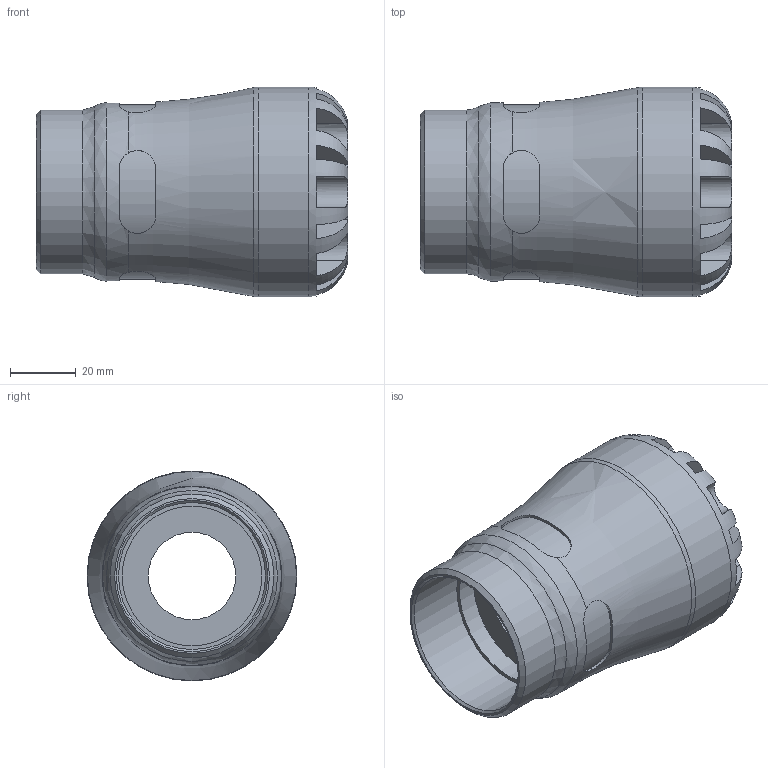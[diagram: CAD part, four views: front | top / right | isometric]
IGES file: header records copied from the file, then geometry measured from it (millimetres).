
Global section: file name: 1003G0032015_1903G0032015.ipt; native system: Autodesk Inventor 2015; preprocessor: unknown; author: KIM; date: 20190127.091356; units: millimetre
Bounding box: 95 x 64 x 64 mm (x, y, z)
Volume: 142331.3 mm3; surface area: 33431.1 mm2
Topology: 1 solids, 1 shells, 104 faces, 279 edges, 180 vertices
Faces by surface type: plane 61, revolution 27, cylinder 15, cone 1
Full cylindrical faces by diameter (mm): 49.92 x1, 54.4 x1, 64 x1
